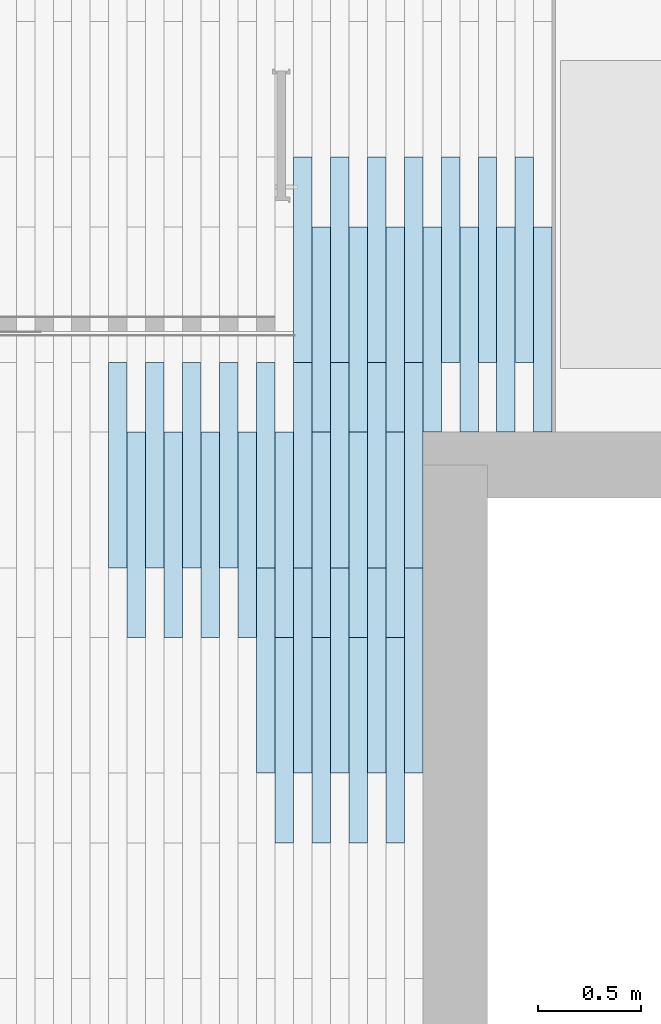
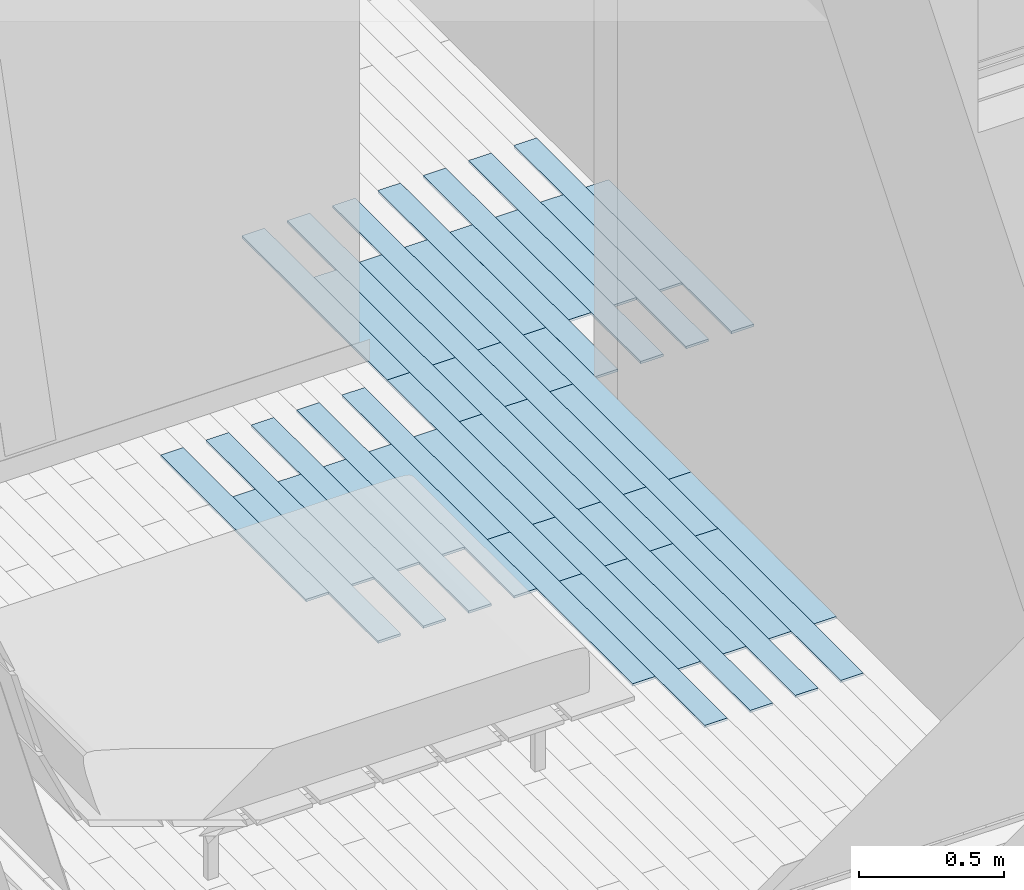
# One storey, part 3 of 61: 40 slabs.
"""IFC2X3 building model written with IfcOpenShell, lengths in metres."""

from ifc_helpers import new_model, entity, si_unit, converted_unit, derived_unit, direction, frame, frame_2d, origin, place, context, subcontext, project, spatial, rectangle, extrude, material, layer, layer_set, layer_usage, type_object, element, save


model = new_model("IFC2X3")

# Units and contexts
model_context = context("Model", 3, precision=1e-05, world=origin(), true_north=direction((6.12303176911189e-17, 1.0)))
body_context = subcontext(model_context, "Body", "Model", "MODEL_VIEW")
ifc_project = project(units=[si_unit("LENGTHUNIT", "METRE"), si_unit("AREAUNIT", "SQUARE_METRE"), si_unit("VOLUMEUNIT", "CUBIC_METRE"), converted_unit("PLANEANGLEUNIT", "DEGREE", entity("IfcRatioMeasure", 0.0174532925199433), si_unit("PLANEANGLEUNIT", "RADIAN"), dimensions=[0, 0, 0, 0, 0, 0, 0]), si_unit("MASSUNIT", "GRAM", prefix="KILO"), derived_unit("MASSDENSITYUNIT", [(si_unit("MASSUNIT", "GRAM", prefix="KILO"), 1), (si_unit("LENGTHUNIT", "METRE"), -3)]), si_unit("TIMEUNIT", "SECOND"), si_unit("FREQUENCYUNIT", "HERTZ"), si_unit("THERMODYNAMICTEMPERATUREUNIT", "DEGREE_CELSIUS"), derived_unit("THERMALTRANSMITTANCEUNIT", [(si_unit("MASSUNIT", "GRAM", prefix="KILO"), 1), (si_unit("THERMODYNAMICTEMPERATUREUNIT", "KELVIN"), -1), (si_unit("TIMEUNIT", "SECOND"), -3)]), derived_unit("VOLUMETRICFLOWRATEUNIT", [(si_unit("LENGTHUNIT", "METRE"), 3), (si_unit("TIMEUNIT", "SECOND"), -1)]), si_unit("ELECTRICCURRENTUNIT", "AMPERE"), si_unit("ELECTRICVOLTAGEUNIT", "VOLT"), si_unit("POWERUNIT", "WATT"), si_unit("FORCEUNIT", "NEWTON", prefix="KILO"), si_unit("ILLUMINANCEUNIT", "LUX"), si_unit("LUMINOUSFLUXUNIT", "LUMEN"), si_unit("LUMINOUSINTENSITYUNIT", "CANDELA"), derived_unit("USERDEFINED", [(si_unit("MASSUNIT", "GRAM", prefix="KILO"), -1), (si_unit("LENGTHUNIT", "METRE"), -2), (si_unit("TIMEUNIT", "SECOND"), 3), (si_unit("LUMINOUSFLUXUNIT", "LUMEN"), 1)]), derived_unit("LINEARVELOCITYUNIT", [(si_unit("LENGTHUNIT", "METRE"), 1), (si_unit("TIMEUNIT", "SECOND"), -1)]), si_unit("PRESSUREUNIT", "PASCAL"), derived_unit("USERDEFINED", [(si_unit("LENGTHUNIT", "METRE"), -2), (si_unit("MASSUNIT", "GRAM", prefix="KILO"), 1), (si_unit("TIMEUNIT", "SECOND"), -2)])], contexts=[model_context])

# Site, building, storey
site_placement = place(None, origin())
site = spatial("IfcSite", under=ifc_project, at=site_placement, Name="Surface", CompositionType="ELEMENT")
building_placement = place(site_placement, origin())
building = spatial("IfcBuilding", under=site, at=building_placement, CompositionType="ELEMENT")
storey_placement = place(building_placement, frame((0.0, 0.0, 2.82)))
storey = spatial("IfcBuildingStorey", under=building, at=storey_placement, Name="ETAGE", CompositionType="ELEMENT", Elevation=2.82)

# Slabs
ifc_material = material(Name="PARQUET BAMBOU")
ifc_layer = layer(ifc_material, 0.01)
ifc_layer_set = layer_set([ifc_layer], Name="Sol:LAME DE BAMBOU")
ifc_layer_usage_1 = layer_usage(ifc_layer_set, "AXIS3", "POSITIVE", 0.0)
slab_type_1 = type_object("IfcSlabType", Name="Sol:LAME DE BAMBOU", PredefinedType="FLOOR", material=ifc_layer_set)
slab_1_placement = place(storey_placement, origin())
element("IfcSlab", 1, at=slab_1_placement, inside=storey, type_object=slab_type_1, material=ifc_layer_usage_1, Name="Sol:LAME DE BAMBOU", ObjectType="Sol:LAME DE BAMBOU", PredefinedType="FLOOR", context=body_context, shape_type="SweptSolid", body=[
    extrude(rectangle(XDim=0.999999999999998, YDim=0.0899999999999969, at=frame_2d((8.68749516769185e-15, 8.66320903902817e-15), x_axis=(1.0, 0.0))), frame((85.566089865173, 84.0875239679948, 0.05), z_axis=(0.0, 0.0, -1.0), x_axis=(0.0, 1.0, 0.0)), (0.0, 0.0, 1.0), 0.00999999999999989),
])
ifc_layer_usage_2 = layer_usage(ifc_layer_set, "AXIS3", "POSITIVE", 0.0)
slab_type_2 = type_object("IfcSlabType", Name="Sol:LAME DE BAMBOU", PredefinedType="FLOOR", material=ifc_layer_set)
slab_2_placement = place(storey_placement, origin())
element("IfcSlab", 2, at=slab_2_placement, inside=storey, type_object=slab_type_2, material=ifc_layer_usage_2, Name="Sol:LAME DE BAMBOU", ObjectType="Sol:LAME DE BAMBOU", PredefinedType="FLOOR", context=body_context, shape_type="SweptSolid", body=[
    extrude(rectangle(XDim=0.999999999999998, YDim=0.0899999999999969, at=frame_2d((8.68749516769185e-15, -8.66320903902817e-15), x_axis=(1.0, 0.0))), frame((85.656089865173, 83.7475239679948, 0.05), z_axis=(0.0, 0.0, -1.0), x_axis=(0.0, 1.0, 0.0)), (0.0, 0.0, 1.0), 0.00999999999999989),
])
ifc_layer_usage_3 = layer_usage(ifc_layer_set, "AXIS3", "POSITIVE", 0.0)
slab_type_3 = type_object("IfcSlabType", Name="Sol:LAME DE BAMBOU", PredefinedType="FLOOR", material=ifc_layer_set)
slab_3_placement = place(storey_placement, origin())
element("IfcSlab", 3, at=slab_3_placement, inside=storey, type_object=slab_type_3, material=ifc_layer_usage_3, Name="Sol:LAME DE BAMBOU", ObjectType="Sol:LAME DE BAMBOU", PredefinedType="FLOOR", context=body_context, shape_type="SweptSolid", body=[
    extrude(rectangle(XDim=0.999999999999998, YDim=0.0899999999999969, at=frame_2d((8.68749516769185e-15, 8.66320903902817e-15), x_axis=(1.0, 0.0))), frame((85.746089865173, 84.0875239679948, 0.05), z_axis=(0.0, 0.0, -1.0), x_axis=(0.0, 1.0, 0.0)), (0.0, 0.0, 1.0), 0.00999999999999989),
])
ifc_layer_usage_4 = layer_usage(ifc_layer_set, "AXIS3", "POSITIVE", 0.0)
slab_type_4 = type_object("IfcSlabType", Name="Sol:LAME DE BAMBOU", PredefinedType="FLOOR", material=ifc_layer_set)
slab_4_placement = place(storey_placement, origin())
element("IfcSlab", 4, at=slab_4_placement, inside=storey, type_object=slab_type_4, material=ifc_layer_usage_4, Name="Sol:LAME DE BAMBOU", ObjectType="Sol:LAME DE BAMBOU", PredefinedType="FLOOR", context=body_context, shape_type="SweptSolid", body=[
    extrude(rectangle(XDim=0.999999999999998, YDim=0.0899999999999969, at=frame_2d((8.68749516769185e-15, 8.66320903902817e-15), x_axis=(1.0, 0.0))), frame((85.836089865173, 83.7475239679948, 0.05), z_axis=(0.0, 0.0, -1.0), x_axis=(0.0, 1.0, 0.0)), (0.0, 0.0, 1.0), 0.00999999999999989),
])
ifc_layer_usage_5 = layer_usage(ifc_layer_set, "AXIS3", "POSITIVE", 0.0)
slab_type_5 = type_object("IfcSlabType", Name="Sol:LAME DE BAMBOU", PredefinedType="FLOOR", material=ifc_layer_set)
slab_5_placement = place(storey_placement, origin())
element("IfcSlab", 5, at=slab_5_placement, inside=storey, type_object=slab_type_5, material=ifc_layer_usage_5, Name="Sol:LAME DE BAMBOU", ObjectType="Sol:LAME DE BAMBOU", PredefinedType="FLOOR", context=body_context, shape_type="SweptSolid", body=[
    extrude(rectangle(XDim=0.999999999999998, YDim=0.0899999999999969, at=frame_2d((8.68749516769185e-15, 8.66320903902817e-15), x_axis=(1.0, 0.0))), frame((85.926089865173, 84.0875239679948, 0.05), z_axis=(0.0, 0.0, -1.0), x_axis=(0.0, 1.0, 0.0)), (0.0, 0.0, 1.0), 0.00999999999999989),
])
ifc_layer_usage_6 = layer_usage(ifc_layer_set, "AXIS3", "POSITIVE", 0.0)
slab_type_6 = type_object("IfcSlabType", Name="Sol:LAME DE BAMBOU", PredefinedType="FLOOR", material=ifc_layer_set)
slab_6_placement = place(storey_placement, origin())
element("IfcSlab", 6, at=slab_6_placement, inside=storey, type_object=slab_type_6, material=ifc_layer_usage_6, Name="Sol:LAME DE BAMBOU", ObjectType="Sol:LAME DE BAMBOU", PredefinedType="FLOOR", context=body_context, shape_type="SweptSolid", body=[
    extrude(rectangle(XDim=0.999999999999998, YDim=0.0899999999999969, at=frame_2d((8.68749516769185e-15, -8.66320903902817e-15), x_axis=(1.0, 0.0))), frame((86.016089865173, 83.7475239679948, 0.05), z_axis=(0.0, 0.0, -1.0), x_axis=(0.0, 1.0, 0.0)), (0.0, 0.0, 1.0), 0.00999999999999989),
])
ifc_layer_usage_7 = layer_usage(ifc_layer_set, "AXIS3", "POSITIVE", 0.0)
slab_type_7 = type_object("IfcSlabType", Name="Sol:LAME DE BAMBOU", PredefinedType="FLOOR", material=ifc_layer_set)
slab_7_placement = place(storey_placement, origin())
element("IfcSlab", 7, at=slab_7_placement, inside=storey, type_object=slab_type_7, material=ifc_layer_usage_7, Name="Sol:LAME DE BAMBOU", ObjectType="Sol:LAME DE BAMBOU", PredefinedType="FLOOR", context=body_context, shape_type="SweptSolid", body=[
    extrude(rectangle(XDim=0.999999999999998, YDim=0.0899999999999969, at=frame_2d((8.68749516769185e-15, 8.66320903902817e-15), x_axis=(1.0, 0.0))), frame((86.106089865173, 84.0875239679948, 0.05), z_axis=(0.0, 0.0, -1.0), x_axis=(0.0, 1.0, 0.0)), (0.0, 0.0, 1.0), 0.00999999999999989),
])
ifc_layer_usage_8 = layer_usage(ifc_layer_set, "AXIS3", "POSITIVE", 0.0)
slab_type_8 = type_object("IfcSlabType", Name="Sol:LAME DE BAMBOU", PredefinedType="FLOOR", material=ifc_layer_set)
slab_8_placement = place(storey_placement, origin())
element("IfcSlab", 8, at=slab_8_placement, inside=storey, type_object=slab_type_8, material=ifc_layer_usage_8, Name="Sol:LAME DE BAMBOU", ObjectType="Sol:LAME DE BAMBOU", PredefinedType="FLOOR", context=body_context, shape_type="SweptSolid", body=[
    extrude(rectangle(XDim=0.999999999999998, YDim=0.0899999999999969, at=frame_2d((8.68749516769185e-15, 8.66320903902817e-15), x_axis=(1.0, 0.0))), frame((86.196089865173, 83.7475239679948, 0.05), z_axis=(0.0, 0.0, -1.0), x_axis=(0.0, 1.0, 0.0)), (0.0, 0.0, 1.0), 0.00999999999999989),
])
ifc_layer_usage_9 = layer_usage(ifc_layer_set, "AXIS3", "POSITIVE", 0.0)
slab_type_9 = type_object("IfcSlabType", Name="Sol:LAME DE BAMBOU", PredefinedType="FLOOR", material=ifc_layer_set)
slab_9_placement = place(storey_placement, origin())
element("IfcSlab", 9, at=slab_9_placement, inside=storey, type_object=slab_type_9, material=ifc_layer_usage_9, Name="Sol:LAME DE BAMBOU", ObjectType="Sol:LAME DE BAMBOU", PredefinedType="FLOOR", context=body_context, shape_type="SweptSolid", body=[
    extrude(rectangle(XDim=0.999999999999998, YDim=0.0899999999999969, at=frame_2d((-8.68749516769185e-15, 8.66320903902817e-15), x_axis=(1.0, 0.0))), frame((86.286089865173, 83.0875239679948, 0.05), z_axis=(0.0, 0.0, -1.0), x_axis=(0.0, 1.0, 0.0)), (0.0, 0.0, 1.0), 0.00999999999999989),
])
ifc_layer_usage_10 = layer_usage(ifc_layer_set, "AXIS3", "POSITIVE", 0.0)
slab_type_10 = type_object("IfcSlabType", Name="Sol:LAME DE BAMBOU", PredefinedType="FLOOR", material=ifc_layer_set)
slab_10_placement = place(storey_placement, origin())
element("IfcSlab", 10, at=slab_10_placement, inside=storey, type_object=slab_type_10, material=ifc_layer_usage_10, Name="Sol:LAME DE BAMBOU", ObjectType="Sol:LAME DE BAMBOU", PredefinedType="FLOOR", context=body_context, shape_type="SweptSolid", body=[
    extrude(rectangle(XDim=0.999999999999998, YDim=0.0899999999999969, at=frame_2d((8.68749516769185e-15, 8.66320903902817e-15), x_axis=(1.0, 0.0))), frame((86.286089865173, 84.0875239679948, 0.05), z_axis=(0.0, 0.0, -1.0), x_axis=(0.0, 1.0, 0.0)), (0.0, 0.0, 1.0), 0.00999999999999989),
])
ifc_layer_usage_11 = layer_usage(ifc_layer_set, "AXIS3", "POSITIVE", 0.0)
slab_type_11 = type_object("IfcSlabType", Name="Sol:LAME DE BAMBOU", PredefinedType="FLOOR", material=ifc_layer_set)
slab_11_placement = place(storey_placement, origin())
element("IfcSlab", 11, at=slab_11_placement, inside=storey, type_object=slab_type_11, material=ifc_layer_usage_11, Name="Sol:LAME DE BAMBOU", ObjectType="Sol:LAME DE BAMBOU", PredefinedType="FLOOR", context=body_context, shape_type="SweptSolid", body=[
    extrude(rectangle(XDim=0.999999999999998, YDim=0.0899999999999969, at=frame_2d((-8.68749516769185e-15, -8.66320903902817e-15), x_axis=(1.0, 0.0))), frame((86.376089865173, 82.7475239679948, 0.05), z_axis=(0.0, 0.0, -1.0), x_axis=(0.0, 1.0, 0.0)), (0.0, 0.0, 1.0), 0.00999999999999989),
])
ifc_layer_usage_12 = layer_usage(ifc_layer_set, "AXIS3", "POSITIVE", 0.0)
slab_type_12 = type_object("IfcSlabType", Name="Sol:LAME DE BAMBOU", PredefinedType="FLOOR", material=ifc_layer_set)
slab_12_placement = place(storey_placement, origin())
element("IfcSlab", 12, at=slab_12_placement, inside=storey, type_object=slab_type_12, material=ifc_layer_usage_12, Name="Sol:LAME DE BAMBOU", ObjectType="Sol:LAME DE BAMBOU", PredefinedType="FLOOR", context=body_context, shape_type="SweptSolid", body=[
    extrude(rectangle(XDim=0.999999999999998, YDim=0.0899999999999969, at=frame_2d((8.68749516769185e-15, -8.66320903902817e-15), x_axis=(1.0, 0.0))), frame((86.376089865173, 83.7475239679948, 0.05), z_axis=(0.0, 0.0, -1.0), x_axis=(0.0, 1.0, 0.0)), (0.0, 0.0, 1.0), 0.00999999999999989),
])
ifc_layer_usage_13 = layer_usage(ifc_layer_set, "AXIS3", "POSITIVE", 0.0)
slab_type_13 = type_object("IfcSlabType", Name="Sol:LAME DE BAMBOU", PredefinedType="FLOOR", material=ifc_layer_set)
slab_13_placement = place(storey_placement, origin())
element("IfcSlab", 13, at=slab_13_placement, inside=storey, type_object=slab_type_13, material=ifc_layer_usage_13, Name="Sol:LAME DE BAMBOU", ObjectType="Sol:LAME DE BAMBOU", PredefinedType="FLOOR", context=body_context, shape_type="SweptSolid", body=[
    extrude(rectangle(XDim=0.999999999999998, YDim=0.0899999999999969, at=frame_2d((-8.68749516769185e-15, 8.66320903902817e-15), x_axis=(1.0, 0.0))), frame((86.466089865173, 83.0875239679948, 0.05), z_axis=(0.0, 0.0, -1.0), x_axis=(0.0, 1.0, 0.0)), (0.0, 0.0, 1.0), 0.00999999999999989),
])
ifc_layer_usage_14 = layer_usage(ifc_layer_set, "AXIS3", "POSITIVE", 0.0)
slab_type_14 = type_object("IfcSlabType", Name="Sol:LAME DE BAMBOU", PredefinedType="FLOOR", material=ifc_layer_set)
slab_14_placement = place(storey_placement, origin())
element("IfcSlab", 14, at=slab_14_placement, inside=storey, type_object=slab_type_14, material=ifc_layer_usage_14, Name="Sol:LAME DE BAMBOU", ObjectType="Sol:LAME DE BAMBOU", PredefinedType="FLOOR", context=body_context, shape_type="SweptSolid", body=[
    extrude(rectangle(XDim=0.999999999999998, YDim=0.0899999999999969, at=frame_2d((8.68749516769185e-15, 8.66320903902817e-15), x_axis=(1.0, 0.0))), frame((86.466089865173, 84.0875239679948, 0.05), z_axis=(0.0, 0.0, -1.0), x_axis=(0.0, 1.0, 0.0)), (0.0, 0.0, 1.0), 0.00999999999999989),
])
ifc_layer_usage_15 = layer_usage(ifc_layer_set, "AXIS3", "POSITIVE", 0.0)
slab_type_15 = type_object("IfcSlabType", Name="Sol:LAME DE BAMBOU", PredefinedType="FLOOR", material=ifc_layer_set)
slab_15_placement = place(storey_placement, origin())
element("IfcSlab", 15, at=slab_15_placement, inside=storey, type_object=slab_type_15, material=ifc_layer_usage_15, Name="Sol:LAME DE BAMBOU", ObjectType="Sol:LAME DE BAMBOU", PredefinedType="FLOOR", context=body_context, shape_type="SweptSolid", body=[
    extrude(rectangle(XDim=0.999999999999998, YDim=0.0899999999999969, at=frame_2d((-8.68749516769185e-15, 8.66320903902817e-15), x_axis=(1.0, 0.0))), frame((86.556089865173, 82.7475239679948, 0.05), z_axis=(0.0, 0.0, -1.0), x_axis=(0.0, 1.0, 0.0)), (0.0, 0.0, 1.0), 0.00999999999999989),
])
ifc_layer_usage_16 = layer_usage(ifc_layer_set, "AXIS3", "POSITIVE", 0.0)
slab_type_16 = type_object("IfcSlabType", Name="Sol:LAME DE BAMBOU", PredefinedType="FLOOR", material=ifc_layer_set)
slab_16_placement = place(storey_placement, origin())
element("IfcSlab", 16, at=slab_16_placement, inside=storey, type_object=slab_type_16, material=ifc_layer_usage_16, Name="Sol:LAME DE BAMBOU", ObjectType="Sol:LAME DE BAMBOU", PredefinedType="FLOOR", context=body_context, shape_type="SweptSolid", body=[
    extrude(rectangle(XDim=0.999999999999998, YDim=0.0899999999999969, at=frame_2d((8.68749516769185e-15, 8.66320903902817e-15), x_axis=(1.0, 0.0))), frame((86.556089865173, 83.7475239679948, 0.05), z_axis=(0.0, 0.0, -1.0), x_axis=(0.0, 1.0, 0.0)), (0.0, 0.0, 1.0), 0.00999999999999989),
])
ifc_layer_usage_17 = layer_usage(ifc_layer_set, "AXIS3", "POSITIVE", 0.0)
slab_type_17 = type_object("IfcSlabType", Name="Sol:LAME DE BAMBOU", PredefinedType="FLOOR", material=ifc_layer_set)
slab_17_placement = place(storey_placement, origin())
element("IfcSlab", 17, at=slab_17_placement, inside=storey, type_object=slab_type_17, material=ifc_layer_usage_17, Name="Sol:LAME DE BAMBOU", ObjectType="Sol:LAME DE BAMBOU", PredefinedType="FLOOR", context=body_context, shape_type="SweptSolid", body=[
    extrude(rectangle(XDim=0.999999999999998, YDim=0.0899999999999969, at=frame_2d((-8.68749516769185e-15, 8.66320903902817e-15), x_axis=(1.0, 0.0))), frame((86.646089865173, 83.0875239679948, 0.05), z_axis=(0.0, 0.0, -1.0), x_axis=(0.0, 1.0, 0.0)), (0.0, 0.0, 1.0), 0.00999999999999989),
])
ifc_layer_usage_18 = layer_usage(ifc_layer_set, "AXIS3", "POSITIVE", 0.0)
slab_type_18 = type_object("IfcSlabType", Name="Sol:LAME DE BAMBOU", PredefinedType="FLOOR", material=ifc_layer_set)
slab_18_placement = place(storey_placement, origin())
element("IfcSlab", 18, at=slab_18_placement, inside=storey, type_object=slab_type_18, material=ifc_layer_usage_18, Name="Sol:LAME DE BAMBOU", ObjectType="Sol:LAME DE BAMBOU", PredefinedType="FLOOR", context=body_context, shape_type="SweptSolid", body=[
    extrude(rectangle(XDim=0.999999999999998, YDim=0.0899999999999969, at=frame_2d((8.68749516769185e-15, 8.66320903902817e-15), x_axis=(1.0, 0.0))), frame((86.646089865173, 84.0875239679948, 0.05), z_axis=(0.0, 0.0, -1.0), x_axis=(0.0, 1.0, 0.0)), (0.0, 0.0, 1.0), 0.00999999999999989),
])
ifc_layer_usage_19 = layer_usage(ifc_layer_set, "AXIS3", "POSITIVE", 0.0)
slab_type_19 = type_object("IfcSlabType", Name="Sol:LAME DE BAMBOU", PredefinedType="FLOOR", material=ifc_layer_set)
slab_19_placement = place(storey_placement, origin())
element("IfcSlab", 19, at=slab_19_placement, inside=storey, type_object=slab_type_19, material=ifc_layer_usage_19, Name="Sol:LAME DE BAMBOU", ObjectType="Sol:LAME DE BAMBOU", PredefinedType="FLOOR", context=body_context, shape_type="SweptSolid", body=[
    extrude(rectangle(XDim=0.999999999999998, YDim=0.0899999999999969, at=frame_2d((-8.68749516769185e-15, -8.66320903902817e-15), x_axis=(1.0, 0.0))), frame((86.736089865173, 82.7475239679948, 0.05), z_axis=(0.0, 0.0, -1.0), x_axis=(0.0, 1.0, 0.0)), (0.0, 0.0, 1.0), 0.00999999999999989),
])
ifc_layer_usage_20 = layer_usage(ifc_layer_set, "AXIS3", "POSITIVE", 0.0)
slab_type_20 = type_object("IfcSlabType", Name="Sol:LAME DE BAMBOU", PredefinedType="FLOOR", material=ifc_layer_set)
slab_20_placement = place(storey_placement, origin())
element("IfcSlab", 20, at=slab_20_placement, inside=storey, type_object=slab_type_20, material=ifc_layer_usage_20, Name="Sol:LAME DE BAMBOU", ObjectType="Sol:LAME DE BAMBOU", PredefinedType="FLOOR", context=body_context, shape_type="SweptSolid", body=[
    extrude(rectangle(XDim=0.999999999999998, YDim=0.0899999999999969, at=frame_2d((8.68749516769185e-15, -8.66320903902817e-15), x_axis=(1.0, 0.0))), frame((86.736089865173, 83.7475239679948, 0.05), z_axis=(0.0, 0.0, -1.0), x_axis=(0.0, 1.0, 0.0)), (0.0, 0.0, 1.0), 0.00999999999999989),
])
ifc_layer_usage_21 = layer_usage(ifc_layer_set, "AXIS3", "POSITIVE", 0.0)
slab_type_21 = type_object("IfcSlabType", Name="Sol:LAME DE BAMBOU", PredefinedType="FLOOR", material=ifc_layer_set)
slab_21_placement = place(storey_placement, origin())
element("IfcSlab", 21, at=slab_21_placement, inside=storey, type_object=slab_type_21, material=ifc_layer_usage_21, Name="Sol:LAME DE BAMBOU", ObjectType="Sol:LAME DE BAMBOU", PredefinedType="FLOOR", context=body_context, shape_type="SweptSolid", body=[
    extrude(rectangle(XDim=0.999999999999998, YDim=0.0899999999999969, at=frame_2d((-8.68749516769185e-15, 8.66320903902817e-15), x_axis=(1.0, 0.0))), frame((86.826089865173, 83.0875239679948, 0.05), z_axis=(0.0, 0.0, -1.0), x_axis=(0.0, 1.0, 0.0)), (0.0, 0.0, 1.0), 0.00999999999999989),
])
ifc_layer_usage_22 = layer_usage(ifc_layer_set, "AXIS3", "POSITIVE", 0.0)
slab_type_22 = type_object("IfcSlabType", Name="Sol:LAME DE BAMBOU", PredefinedType="FLOOR", material=ifc_layer_set)
slab_22_placement = place(storey_placement, origin())
element("IfcSlab", 22, at=slab_22_placement, inside=storey, type_object=slab_type_22, material=ifc_layer_usage_22, Name="Sol:LAME DE BAMBOU", ObjectType="Sol:LAME DE BAMBOU", PredefinedType="FLOOR", context=body_context, shape_type="SweptSolid", body=[
    extrude(rectangle(XDim=0.999999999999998, YDim=0.0899999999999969, at=frame_2d((8.68749516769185e-15, 8.66320903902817e-15), x_axis=(1.0, 0.0))), frame((86.826089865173, 84.0875239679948, 0.05), z_axis=(0.0, 0.0, -1.0), x_axis=(0.0, 1.0, 0.0)), (0.0, 0.0, 1.0), 0.00999999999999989),
])
ifc_layer_usage_23 = layer_usage(ifc_layer_set, "AXIS3", "POSITIVE", 0.0)
slab_type_23 = type_object("IfcSlabType", Name="Sol:LAME DE BAMBOU", PredefinedType="FLOOR", material=ifc_layer_set)
slab_23_placement = place(storey_placement, origin())
element("IfcSlab", 23, at=slab_23_placement, inside=storey, type_object=slab_type_23, material=ifc_layer_usage_23, Name="Sol:LAME DE BAMBOU", ObjectType="Sol:LAME DE BAMBOU", PredefinedType="FLOOR", context=body_context, shape_type="SweptSolid", body=[
    extrude(rectangle(XDim=0.999999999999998, YDim=0.0899999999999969, at=frame_2d((-8.68749516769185e-15, 8.66320903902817e-15), x_axis=(1.0, 0.0))), frame((86.466089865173, 85.0875239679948, 0.05), z_axis=(0.0, 0.0, -1.0), x_axis=(0.0, 1.0, 0.0)), (0.0, 0.0, 1.0), 0.00999999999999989),
])
ifc_layer_usage_24 = layer_usage(ifc_layer_set, "AXIS3", "POSITIVE", 0.0)
slab_type_24 = type_object("IfcSlabType", Name="Sol:LAME DE BAMBOU", PredefinedType="FLOOR", material=ifc_layer_set)
slab_24_placement = place(storey_placement, origin())
element("IfcSlab", 24, at=slab_24_placement, inside=storey, type_object=slab_type_24, material=ifc_layer_usage_24, Name="Sol:LAME DE BAMBOU", ObjectType="Sol:LAME DE BAMBOU", PredefinedType="FLOOR", context=body_context, shape_type="SweptSolid", body=[
    extrude(rectangle(XDim=0.999999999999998, YDim=0.0899999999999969, at=frame_2d((-8.68749516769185e-15, 8.66320903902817e-15), x_axis=(1.0, 0.0))), frame((86.556089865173, 84.7475239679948, 0.05), z_axis=(0.0, 0.0, -1.0), x_axis=(0.0, 1.0, 0.0)), (0.0, 0.0, 1.0), 0.00999999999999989),
])
ifc_layer_usage_25 = layer_usage(ifc_layer_set, "AXIS3", "POSITIVE", 0.0)
slab_type_25 = type_object("IfcSlabType", Name="Sol:LAME DE BAMBOU", PredefinedType="FLOOR", material=ifc_layer_set)
slab_25_placement = place(storey_placement, origin())
element("IfcSlab", 25, at=slab_25_placement, inside=storey, type_object=slab_type_25, material=ifc_layer_usage_25, Name="Sol:LAME DE BAMBOU", ObjectType="Sol:LAME DE BAMBOU", PredefinedType="FLOOR", context=body_context, shape_type="SweptSolid", body=[
    extrude(rectangle(XDim=0.999999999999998, YDim=0.0899999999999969, at=frame_2d((-8.68749516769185e-15, 8.66320903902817e-15), x_axis=(1.0, 0.0))), frame((86.916089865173, 82.7475239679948, 0.05), z_axis=(0.0, 0.0, -1.0), x_axis=(0.0, 1.0, 0.0)), (0.0, 0.0, 1.0), 0.00999999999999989),
])
ifc_layer_usage_26 = layer_usage(ifc_layer_set, "AXIS3", "POSITIVE", 0.0)
slab_type_26 = type_object("IfcSlabType", Name="Sol:LAME DE BAMBOU", PredefinedType="FLOOR", material=ifc_layer_set)
slab_26_placement = place(storey_placement, origin())
element("IfcSlab", 26, at=slab_26_placement, inside=storey, type_object=slab_type_26, material=ifc_layer_usage_26, Name="Sol:LAME DE BAMBOU", ObjectType="Sol:LAME DE BAMBOU", PredefinedType="FLOOR", context=body_context, shape_type="SweptSolid", body=[
    extrude(rectangle(XDim=0.999999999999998, YDim=0.0899999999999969, at=frame_2d((8.68749516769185e-15, 8.66320903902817e-15), x_axis=(1.0, 0.0))), frame((86.916089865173, 83.7475239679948, 0.05), z_axis=(0.0, 0.0, -1.0), x_axis=(0.0, 1.0, 0.0)), (0.0, 0.0, 1.0), 0.00999999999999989),
])
ifc_layer_usage_27 = layer_usage(ifc_layer_set, "AXIS3", "POSITIVE", 0.0)
slab_type_27 = type_object("IfcSlabType", Name="Sol:LAME DE BAMBOU", PredefinedType="FLOOR", material=ifc_layer_set)
slab_27_placement = place(storey_placement, origin())
element("IfcSlab", 27, at=slab_27_placement, inside=storey, type_object=slab_type_27, material=ifc_layer_usage_27, Name="Sol:LAME DE BAMBOU", ObjectType="Sol:LAME DE BAMBOU", PredefinedType="FLOOR", context=body_context, shape_type="SweptSolid", body=[
    extrude(rectangle(XDim=0.999999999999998, YDim=0.0899999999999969, at=frame_2d((-8.68749516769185e-15, 8.66320903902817e-15), x_axis=(1.0, 0.0))), frame((86.916089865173, 84.7475239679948, 0.05), z_axis=(0.0, 0.0, -1.0), x_axis=(0.0, 1.0, 0.0)), (0.0, 0.0, 1.0), 0.00999999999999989),
])
ifc_layer_usage_28 = layer_usage(ifc_layer_set, "AXIS3", "POSITIVE", 0.0)
slab_type_28 = type_object("IfcSlabType", Name="Sol:LAME DE BAMBOU", PredefinedType="FLOOR", material=ifc_layer_set)
slab_28_placement = place(storey_placement, origin())
element("IfcSlab", 28, at=slab_28_placement, inside=storey, type_object=slab_type_28, material=ifc_layer_usage_28, Name="Sol:LAME DE BAMBOU", ObjectType="Sol:LAME DE BAMBOU", PredefinedType="FLOOR", context=body_context, shape_type="SweptSolid", body=[
    extrude(rectangle(XDim=0.999999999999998, YDim=0.0899999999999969, at=frame_2d((-8.68749516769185e-15, -8.66320903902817e-15), x_axis=(1.0, 0.0))), frame((86.736089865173, 84.7475239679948, 0.05), z_axis=(0.0, 0.0, -1.0), x_axis=(0.0, 1.0, 0.0)), (0.0, 0.0, 1.0), 0.00999999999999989),
])
ifc_layer_usage_29 = layer_usage(ifc_layer_set, "AXIS3", "POSITIVE", 0.0)
slab_type_29 = type_object("IfcSlabType", Name="Sol:LAME DE BAMBOU", PredefinedType="FLOOR", material=ifc_layer_set)
slab_29_placement = place(storey_placement, origin())
element("IfcSlab", 29, at=slab_29_placement, inside=storey, type_object=slab_type_29, material=ifc_layer_usage_29, Name="Sol:LAME DE BAMBOU", ObjectType="Sol:LAME DE BAMBOU", PredefinedType="FLOOR", context=body_context, shape_type="SweptSolid", body=[
    extrude(rectangle(XDim=0.999999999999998, YDim=0.0899999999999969, at=frame_2d((-8.68749516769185e-15, 8.66320903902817e-15), x_axis=(1.0, 0.0))), frame((86.646089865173, 85.0875239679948, 0.05), z_axis=(0.0, 0.0, -1.0), x_axis=(0.0, 1.0, 0.0)), (0.0, 0.0, 1.0), 0.00999999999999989),
])
ifc_layer_usage_30 = layer_usage(ifc_layer_set, "AXIS3", "POSITIVE", 0.0)
slab_type_30 = type_object("IfcSlabType", Name="Sol:LAME DE BAMBOU", PredefinedType="FLOOR", material=ifc_layer_set)
slab_30_placement = place(storey_placement, origin())
element("IfcSlab", 30, at=slab_30_placement, inside=storey, type_object=slab_type_30, material=ifc_layer_usage_30, Name="Sol:LAME DE BAMBOU", ObjectType="Sol:LAME DE BAMBOU", PredefinedType="FLOOR", context=body_context, shape_type="SweptSolid", body=[
    extrude(rectangle(XDim=0.999999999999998, YDim=0.0899999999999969, at=frame_2d((-8.68749516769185e-15, 8.66320903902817e-15), x_axis=(1.0, 0.0))), frame((86.826089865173, 85.0875239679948, 0.05), z_axis=(0.0, 0.0, -1.0), x_axis=(0.0, 1.0, 0.0)), (0.0, 0.0, 1.0), 0.00999999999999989),
])
ifc_layer_usage_31 = layer_usage(ifc_layer_set, "AXIS3", "POSITIVE", 0.0)
slab_type_31 = type_object("IfcSlabType", Name="Sol:LAME DE BAMBOU", PredefinedType="FLOOR", material=ifc_layer_set)
slab_31_placement = place(storey_placement, origin())
element("IfcSlab", 31, at=slab_31_placement, inside=storey, type_object=slab_type_31, material=ifc_layer_usage_31, Name="Sol:LAME DE BAMBOU", ObjectType="Sol:LAME DE BAMBOU", PredefinedType="FLOOR", context=body_context, shape_type="SweptSolid", body=[
    extrude(rectangle(XDim=0.999999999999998, YDim=0.0899999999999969, at=frame_2d((-8.68749516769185e-15, 8.66320903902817e-15), x_axis=(1.0, 0.0))), frame((87.006089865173, 83.0875239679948, 0.05), z_axis=(0.0, 0.0, -1.0), x_axis=(0.0, 1.0, 0.0)), (0.0, 0.0, 1.0), 0.00999999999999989),
])
ifc_layer_usage_32 = layer_usage(ifc_layer_set, "AXIS3", "POSITIVE", 0.0)
slab_type_32 = type_object("IfcSlabType", Name="Sol:LAME DE BAMBOU", PredefinedType="FLOOR", material=ifc_layer_set)
slab_32_placement = place(storey_placement, origin())
element("IfcSlab", 32, at=slab_32_placement, inside=storey, type_object=slab_type_32, material=ifc_layer_usage_32, Name="Sol:LAME DE BAMBOU", ObjectType="Sol:LAME DE BAMBOU", PredefinedType="FLOOR", context=body_context, shape_type="SweptSolid", body=[
    extrude(rectangle(XDim=0.999999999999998, YDim=0.0899999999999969, at=frame_2d((8.68749516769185e-15, 8.66320903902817e-15), x_axis=(1.0, 0.0))), frame((87.006089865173, 84.0875239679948, 0.05), z_axis=(0.0, 0.0, -1.0), x_axis=(0.0, 1.0, 0.0)), (0.0, 0.0, 1.0), 0.00999999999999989),
])
ifc_layer_usage_33 = layer_usage(ifc_layer_set, "AXIS3", "POSITIVE", 0.0)
slab_type_33 = type_object("IfcSlabType", Name="Sol:LAME DE BAMBOU", PredefinedType="FLOOR", material=ifc_layer_set)
slab_33_placement = place(storey_placement, origin())
element("IfcSlab", 33, at=slab_33_placement, inside=storey, type_object=slab_type_33, material=ifc_layer_usage_33, Name="Sol:LAME DE BAMBOU", ObjectType="Sol:LAME DE BAMBOU", PredefinedType="FLOOR", context=body_context, shape_type="SweptSolid", body=[
    extrude(rectangle(XDim=0.999999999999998, YDim=0.0899999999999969, at=frame_2d((-8.68749516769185e-15, 8.66320903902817e-15), x_axis=(1.0, 0.0))), frame((87.006089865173, 85.0875239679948, 0.05), z_axis=(0.0, 0.0, -1.0), x_axis=(0.0, 1.0, 0.0)), (0.0, 0.0, 1.0), 0.00999999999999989),
])
ifc_layer_usage_34 = layer_usage(ifc_layer_set, "AXIS3", "POSITIVE", 0.0)
slab_type_34 = type_object("IfcSlabType", Name="Sol:LAME DE BAMBOU", PredefinedType="FLOOR", material=ifc_layer_set)
slab_34_placement = place(storey_placement, origin())
element("IfcSlab", 34, at=slab_34_placement, inside=storey, type_object=slab_type_34, material=ifc_layer_usage_34, Name="Sol:LAME DE BAMBOU", ObjectType="Sol:LAME DE BAMBOU", PredefinedType="FLOOR", context=body_context, shape_type="SweptSolid", body=[
    extrude(rectangle(XDim=0.999999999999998, YDim=0.0899999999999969, at=frame_2d((-8.68749516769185e-15, 8.66320903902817e-15), x_axis=(1.0, 0.0))), frame((87.0961607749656, 84.7475239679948, 0.05), z_axis=(0.0, 0.0, -1.0), x_axis=(0.0, 1.0, 0.0)), (0.0, 0.0, 1.0), 0.00999999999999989),
])
ifc_layer_usage_35 = layer_usage(ifc_layer_set, "AXIS3", "POSITIVE", 0.0)
slab_type_35 = type_object("IfcSlabType", Name="Sol:LAME DE BAMBOU", PredefinedType="FLOOR", material=ifc_layer_set)
slab_35_placement = place(storey_placement, origin())
element("IfcSlab", 35, at=slab_35_placement, inside=storey, type_object=slab_type_35, material=ifc_layer_usage_35, Name="Sol:LAME DE BAMBOU", ObjectType="Sol:LAME DE BAMBOU", PredefinedType="FLOOR", context=body_context, shape_type="SweptSolid", body=[
    extrude(rectangle(XDim=0.999999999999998, YDim=0.0899999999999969, at=frame_2d((-8.68749516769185e-15, 8.66320903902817e-15), x_axis=(1.0, 0.0))), frame((87.1861607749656, 85.0875239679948, 0.05), z_axis=(0.0, 0.0, -1.0), x_axis=(0.0, 1.0, 0.0)), (0.0, 0.0, 1.0), 0.00999999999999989),
])
ifc_layer_usage_36 = layer_usage(ifc_layer_set, "AXIS3", "POSITIVE", 0.0)
slab_type_36 = type_object("IfcSlabType", Name="Sol:LAME DE BAMBOU", PredefinedType="FLOOR", material=ifc_layer_set)
slab_36_placement = place(storey_placement, origin())
element("IfcSlab", 36, at=slab_36_placement, inside=storey, type_object=slab_type_36, material=ifc_layer_usage_36, Name="Sol:LAME DE BAMBOU", ObjectType="Sol:LAME DE BAMBOU", PredefinedType="FLOOR", context=body_context, shape_type="SweptSolid", body=[
    extrude(rectangle(XDim=0.999999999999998, YDim=0.0899999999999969, at=frame_2d((-8.68749516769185e-15, 8.66320903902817e-15), x_axis=(1.0, 0.0))), frame((87.2761607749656, 84.7475239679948, 0.05), z_axis=(0.0, 0.0, -1.0), x_axis=(0.0, 1.0, 0.0)), (0.0, 0.0, 1.0), 0.00999999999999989),
])
ifc_layer_usage_37 = layer_usage(ifc_layer_set, "AXIS3", "POSITIVE", 0.0)
slab_type_37 = type_object("IfcSlabType", Name="Sol:LAME DE BAMBOU", PredefinedType="FLOOR", material=ifc_layer_set)
slab_37_placement = place(storey_placement, origin())
element("IfcSlab", 37, at=slab_37_placement, inside=storey, type_object=slab_type_37, material=ifc_layer_usage_37, Name="Sol:LAME DE BAMBOU", ObjectType="Sol:LAME DE BAMBOU", PredefinedType="FLOOR", context=body_context, shape_type="SweptSolid", body=[
    extrude(rectangle(XDim=0.999999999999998, YDim=0.0899999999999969, at=frame_2d((-8.68749516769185e-15, -8.66320903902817e-15), x_axis=(1.0, 0.0))), frame((87.3661607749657, 85.0875239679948, 0.05), z_axis=(0.0, 0.0, -1.0), x_axis=(0.0, 1.0, 0.0)), (0.0, 0.0, 1.0), 0.00999999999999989),
])
ifc_layer_usage_38 = layer_usage(ifc_layer_set, "AXIS3", "POSITIVE", 0.0)
slab_type_38 = type_object("IfcSlabType", Name="Sol:LAME DE BAMBOU", PredefinedType="FLOOR", material=ifc_layer_set)
slab_38_placement = place(storey_placement, origin())
element("IfcSlab", 38, at=slab_38_placement, inside=storey, type_object=slab_type_38, material=ifc_layer_usage_38, Name="Sol:LAME DE BAMBOU", ObjectType="Sol:LAME DE BAMBOU", PredefinedType="FLOOR", context=body_context, shape_type="SweptSolid", body=[
    extrude(rectangle(XDim=0.999999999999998, YDim=0.0899999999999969, at=frame_2d((-8.68749516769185e-15, 8.66320903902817e-15), x_axis=(1.0, 0.0))), frame((87.4561607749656, 84.7475239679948, 0.05), z_axis=(0.0, 0.0, -1.0), x_axis=(0.0, 1.0, 0.0)), (0.0, 0.0, 1.0), 0.00999999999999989),
])
ifc_layer_usage_39 = layer_usage(ifc_layer_set, "AXIS3", "POSITIVE", 0.0)
slab_type_39 = type_object("IfcSlabType", Name="Sol:LAME DE BAMBOU", PredefinedType="FLOOR", material=ifc_layer_set)
slab_39_placement = place(storey_placement, origin())
element("IfcSlab", 39, at=slab_39_placement, inside=storey, type_object=slab_type_39, material=ifc_layer_usage_39, Name="Sol:LAME DE BAMBOU", ObjectType="Sol:LAME DE BAMBOU", PredefinedType="FLOOR", context=body_context, shape_type="SweptSolid", body=[
    extrude(rectangle(XDim=0.999999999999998, YDim=0.0899999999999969, at=frame_2d((-8.68749516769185e-15, 8.66320903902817e-15), x_axis=(1.0, 0.0))), frame((87.5461607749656, 85.0875239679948, 0.05), z_axis=(0.0, 0.0, -1.0), x_axis=(0.0, 1.0, 0.0)), (0.0, 0.0, 1.0), 0.00999999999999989),
])
ifc_layer_usage_40 = layer_usage(ifc_layer_set, "AXIS3", "POSITIVE", 0.0)
slab_type_40 = type_object("IfcSlabType", Name="Sol:LAME DE BAMBOU", PredefinedType="FLOOR", material=ifc_layer_set)
slab_40_placement = place(storey_placement, origin())
element("IfcSlab", 40, at=slab_40_placement, inside=storey, type_object=slab_type_40, material=ifc_layer_usage_40, Name="Sol:LAME DE BAMBOU", ObjectType="Sol:LAME DE BAMBOU", PredefinedType="FLOOR", context=body_context, shape_type="SweptSolid", body=[
    extrude(rectangle(XDim=0.999999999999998, YDim=0.0899999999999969, at=frame_2d((-8.68749516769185e-15, 8.66320903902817e-15), x_axis=(1.0, 0.0))), frame((87.6361607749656, 84.7475239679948, 0.05), z_axis=(0.0, 0.0, -1.0), x_axis=(0.0, 1.0, 0.0)), (0.0, 0.0, 1.0), 0.00999999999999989),
])

save(model, "model.ifc")
